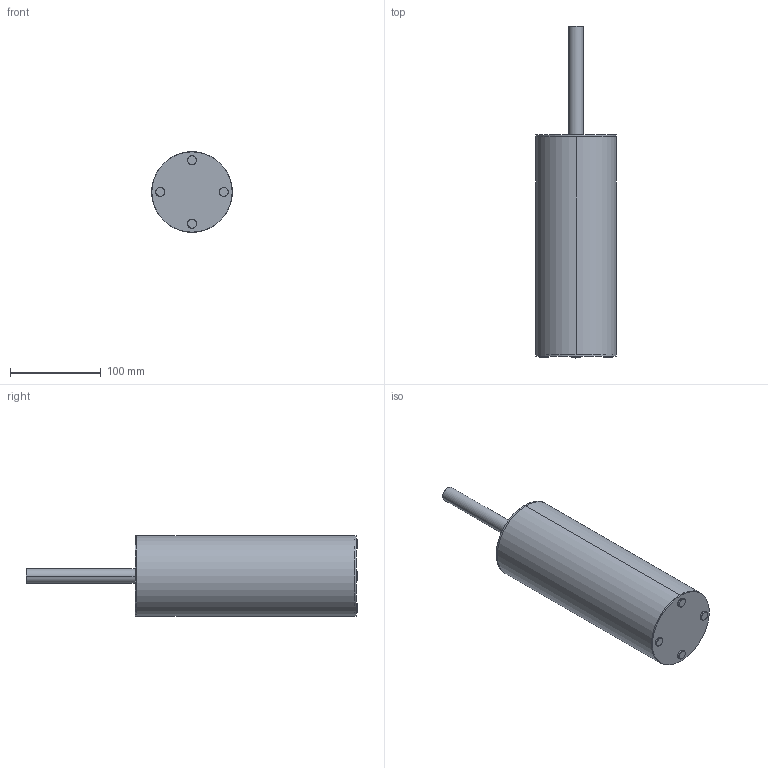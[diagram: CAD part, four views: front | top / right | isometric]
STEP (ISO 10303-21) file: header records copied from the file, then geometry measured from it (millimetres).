
FILE_DESCRIPTION (( 'STEP AP214' ), '1' );
FILE_NAME ('Szczotka WC Equla.STEP', '2024-07-19T10:32:07', ( '' ), ( '' ), 'SwSTEP 2.0', 'SolidWorks 2021', '' );
FILE_SCHEMA (( 'AUTOMOTIVE_DESIGN' ));
Length unit declared in the file: millimetre
Products named in the file (10): 04-007-0363-S-01-00; stopka gumowa 10mm_7mm; 04-007-0363-S-01-01; 04-001-0362-S-00-03; 04-007-0363-S-02-01; 04-007-0363-S-02-00; 04-007-0363-S-01-02; Szczotka WC Equla; szczotka gwint m6; 04-007-0363-S-02-02
Assembly tree (12 placements, depth 3):
  Szczotka WC Equla
    04-007-0363-S-01-00
      04-007-0363-S-01-01
      04-007-0363-S-01-02
    04-007-0363-S-02-00
      04-007-0363-S-02-01
      04-007-0363-S-02-02
    04-001-0362-S-00-03
    szczotka gwint m6
    stopka gumowa 10mm_7mm  x4
Bounding box: 89 x 365.5 x 89 mm (x, y, z)
Volume: 473884.8 mm3; surface area: 196083.9 mm2
Topology: 10 solids, 10 shells, 136 faces, 312 edges, 199 vertices
Faces by surface type: cylinder 88, plane 27, torus 10, cone 8, bspline 3
Entity records: 6562 total; most frequent: CARTESIAN_POINT 3767, ORIENTED_EDGE 520, DIRECTION 507, EDGE_CURVE 260, AXIS2_PLACEMENT_3D 207, VERTEX_POINT 169, EDGE_LOOP 127, FACE_OUTER_BOUND 109
